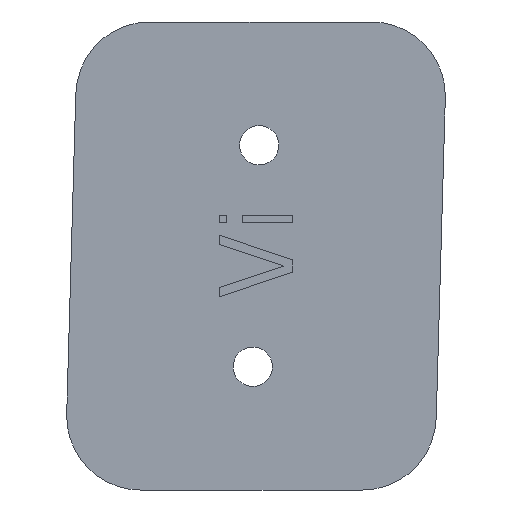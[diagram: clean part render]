
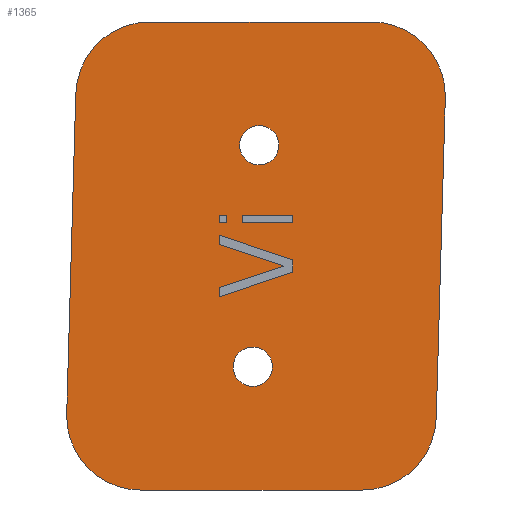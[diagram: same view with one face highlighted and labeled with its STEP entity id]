
A CAD part, front view. The second image highlights one B-rep face of the part: STEP entity #1365.
In plain terms, the highlighted planar face has unit normal (0, -1, 0).
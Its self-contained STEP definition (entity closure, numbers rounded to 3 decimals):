
#2=DIRECTION('',(-0.028,0.,-1.));
#3=VECTOR('',#2,26.01);
#4=CARTESIAN_POINT('',(-14.633,-22.25,13.17));
#5=LINE('',#4,#3);
#6=CARTESIAN_POINT('',(-8.635,-22.25,13.));
#7=DIRECTION('',(0.,-1.,0.));
#8=DIRECTION('',(0.,0.,1.));
#9=AXIS2_PLACEMENT_3D('',#6,#7,#8);
#11=DIRECTION('',(-1.,0.,0.));
#12=VECTOR('',#11,18.007);
#13=CARTESIAN_POINT('',(9.372,-22.25,19.));
#14=LINE('',#13,#12);
#15=CARTESIAN_POINT('',(9.372,-22.25,13.));
#16=DIRECTION('',(0.,-1.,0.));
#17=DIRECTION('',(1.,0.,-0.028));
#18=AXIS2_PLACEMENT_3D('',#15,#16,#17);
#20=DIRECTION('',(0.028,0.,1.));
#21=VECTOR('',#20,26.01);
#22=CARTESIAN_POINT('',(14.633,-22.25,-13.17));
#23=LINE('',#22,#21);
#24=CARTESIAN_POINT('',(8.635,-22.25,-13.));
#25=DIRECTION('',(0.,-1.,0.));
#26=DIRECTION('',(0.,0.,-1.));
#27=AXIS2_PLACEMENT_3D('',#24,#25,#26);
#29=DIRECTION('',(1.,0.,0.));
#30=VECTOR('',#29,18.007);
#31=CARTESIAN_POINT('',(-9.372,-22.25,-19.));
#32=LINE('',#31,#30);
#33=CARTESIAN_POINT('',(-9.372,-22.25,-13.));
#34=DIRECTION('',(0.,-1.,0.));
#35=DIRECTION('',(-1.,0.,0.028));
#36=AXIS2_PLACEMENT_3D('',#33,#34,#35);
#38=CARTESIAN_POINT('',(-0.255,-22.25,-8.996));
#39=DIRECTION('',(0.,-1.,0.));
#40=DIRECTION('',(1.,0.,0.));
#41=AXIS2_PLACEMENT_3D('',#38,#39,#40);
#43=CARTESIAN_POINT('',(-0.255,-22.25,-8.996));
#44=DIRECTION('',(0.,-1.,0.));
#45=DIRECTION('',(-1.,0.,0.));
#46=AXIS2_PLACEMENT_3D('',#43,#44,#45);
#48=CARTESIAN_POINT('',(0.255,-22.25,8.996));
#49=DIRECTION('',(0.,-1.,0.));
#50=DIRECTION('',(1.,0.,0.));
#51=AXIS2_PLACEMENT_3D('',#48,#49,#50);
#53=CARTESIAN_POINT('',(0.255,-22.25,8.996));
#54=DIRECTION('',(0.,-1.,0.));
#55=DIRECTION('',(-1.,0.,0.));
#56=AXIS2_PLACEMENT_3D('',#53,#54,#55);
#58=DIRECTION('',(-0.948,0.,-0.317));
#59=VECTOR('',#58,5.519);
#60=CARTESIAN_POINT('',(2.234,-22.25,-0.813));
#61=LINE('',#60,#59);
#62=DIRECTION('',(0.,0.,-1.));
#63=VECTOR('',#62,0.75);
#64=CARTESIAN_POINT('',(-3.,-22.25,-2.563));
#65=LINE('',#64,#63);
#66=DIRECTION('',(0.949,0.,0.316));
#67=VECTOR('',#66,6.325);
#68=CARTESIAN_POINT('',(-3.,-22.25,-3.313));
#69=LINE('',#68,#67);
#70=DIRECTION('',(0.,0.,1.));
#71=VECTOR('',#70,1.);
#72=CARTESIAN_POINT('',(3.,-22.25,-1.312));
#73=LINE('',#72,#71);
#74=DIRECTION('',(-0.949,0.,0.316));
#75=VECTOR('',#74,6.325);
#76=CARTESIAN_POINT('',(3.,-22.25,-0.313));
#77=LINE('',#76,#75);
#78=DIRECTION('',(0.,0.,-1.));
#79=VECTOR('',#78,0.75);
#80=CARTESIAN_POINT('',(-3.,-22.25,1.687));
#81=LINE('',#80,#79);
#82=DIRECTION('',(0.948,0.,-0.317));
#83=VECTOR('',#82,5.519);
#84=CARTESIAN_POINT('',(-3.,-22.25,0.937));
#85=LINE('',#84,#83);
#86=DIRECTION('',(-1.,0.,0.));
#87=VECTOR('',#86,4.085);
#88=CARTESIAN_POINT('',(3.,-22.25,3.312));
#89=LINE('',#88,#87);
#90=DIRECTION('',(0.,0.,-1.));
#91=VECTOR('',#90,0.625);
#92=CARTESIAN_POINT('',(-1.085,-22.25,3.312));
#93=LINE('',#92,#91);
#94=DIRECTION('',(1.,0.,0.));
#95=VECTOR('',#94,4.085);
#96=CARTESIAN_POINT('',(-1.085,-22.25,2.688));
#97=LINE('',#96,#95);
#98=DIRECTION('',(0.,0.,1.));
#99=VECTOR('',#98,0.625);
#100=CARTESIAN_POINT('',(3.,-22.25,2.688));
#101=LINE('',#100,#99);
#102=DIRECTION('',(-1.,0.,0.));
#103=VECTOR('',#102,0.638);
#104=CARTESIAN_POINT('',(-2.362,-22.25,3.312));
#105=LINE('',#104,#103);
#106=DIRECTION('',(0.,0.,-1.));
#107=VECTOR('',#106,0.625);
#108=CARTESIAN_POINT('',(-3.,-22.25,3.312));
#109=LINE('',#108,#107);
#110=DIRECTION('',(1.,0.,0.));
#111=VECTOR('',#110,0.638);
#112=CARTESIAN_POINT('',(-3.,-22.25,2.688));
#113=LINE('',#112,#111);
#114=DIRECTION('',(0.,0.,1.));
#115=VECTOR('',#114,0.625);
#116=CARTESIAN_POINT('',(-2.362,-22.25,2.688));
#117=LINE('',#116,#115);
#1164=CARTESIAN_POINT('',(2.234,-22.25,-0.813));
#1165=CARTESIAN_POINT('',(-3.,-22.25,-2.563));
#1166=VERTEX_POINT('',#1164);
#1167=VERTEX_POINT('',#1165);
#1168=CARTESIAN_POINT('',(-3.,-22.25,-3.313));
#1169=VERTEX_POINT('',#1168);
#1170=CARTESIAN_POINT('',(3.,-22.25,-1.312));
#1171=VERTEX_POINT('',#1170);
#1172=CARTESIAN_POINT('',(3.,-22.25,-0.313));
#1173=VERTEX_POINT('',#1172);
#1190=CARTESIAN_POINT('',(3.,-22.25,3.312));
#1191=CARTESIAN_POINT('',(-1.085,-22.25,3.312));
#1192=VERTEX_POINT('',#1190);
#1193=VERTEX_POINT('',#1191);
#1194=CARTESIAN_POINT('',(-1.085,-22.25,2.688));
#1195=VERTEX_POINT('',#1194);
#1196=CARTESIAN_POINT('',(3.,-22.25,2.688));
#1197=VERTEX_POINT('',#1196);
#1198=CARTESIAN_POINT('',(1.345,-22.25,-8.996));
#1199=CARTESIAN_POINT('',(-1.855,-22.25,-8.996));
#1200=VERTEX_POINT('',#1198);
#1201=VERTEX_POINT('',#1199);
#1210=CARTESIAN_POINT('',(1.855,-22.25,8.996));
#1211=CARTESIAN_POINT('',(-1.345,-22.25,8.996));
#1212=VERTEX_POINT('',#1210);
#1213=VERTEX_POINT('',#1211);
#1234=CARTESIAN_POINT('',(-3.,-22.25,1.687));
#1235=VERTEX_POINT('',#1234);
#1236=CARTESIAN_POINT('',(-3.,-22.25,0.937));
#1237=VERTEX_POINT('',#1236);
#1238=CARTESIAN_POINT('',(-2.362,-22.25,3.312));
#1239=CARTESIAN_POINT('',(-3.,-22.25,3.312));
#1240=VERTEX_POINT('',#1238);
#1241=VERTEX_POINT('',#1239);
#1242=CARTESIAN_POINT('',(-3.,-22.25,2.688));
#1243=VERTEX_POINT('',#1242);
#1244=CARTESIAN_POINT('',(-2.362,-22.25,2.688));
#1245=VERTEX_POINT('',#1244);
#1246=CARTESIAN_POINT('',(-14.633,-22.25,13.17));
#1247=CARTESIAN_POINT('',(-15.37,-22.25,-12.83));
#1248=VERTEX_POINT('',#1246);
#1249=VERTEX_POINT('',#1247);
#1250=CARTESIAN_POINT('',(-9.372,-22.25,-19.));
#1251=VERTEX_POINT('',#1250);
#1252=CARTESIAN_POINT('',(8.635,-22.25,-19.));
#1253=VERTEX_POINT('',#1252);
#1254=CARTESIAN_POINT('',(14.633,-22.25,-13.17));
#1255=VERTEX_POINT('',#1254);
#1256=CARTESIAN_POINT('',(15.37,-22.25,12.83));
#1257=VERTEX_POINT('',#1256);
#1258=CARTESIAN_POINT('',(9.372,-22.25,19.));
#1259=VERTEX_POINT('',#1258);
#1260=CARTESIAN_POINT('',(-8.635,-22.25,19.));
#1261=VERTEX_POINT('',#1260);
#1294=CARTESIAN_POINT('',(0.,-22.25,0.));
#1295=DIRECTION('',(0.,1.,0.));
#1296=DIRECTION('',(0.,0.,1.));
#1297=AXIS2_PLACEMENT_3D('',#1294,#1295,#1296);
#1298=PLANE('',#1297);
#1300=ORIENTED_EDGE('',*,*,#1299,.F.);
#1302=ORIENTED_EDGE('',*,*,#1301,.F.);
#1304=ORIENTED_EDGE('',*,*,#1303,.F.);
#1306=ORIENTED_EDGE('',*,*,#1305,.F.);
#1308=ORIENTED_EDGE('',*,*,#1307,.F.);
#1310=ORIENTED_EDGE('',*,*,#1309,.F.);
#1312=ORIENTED_EDGE('',*,*,#1311,.F.);
#1314=ORIENTED_EDGE('',*,*,#1313,.F.);
#1315=EDGE_LOOP('',(#1300,#1302,#1304,#1306,#1308,#1310,#1312,#1314));
#1316=FACE_OUTER_BOUND('',#1315,.F.);
#1318=ORIENTED_EDGE('',*,*,#1317,.T.);
#1320=ORIENTED_EDGE('',*,*,#1319,.T.);
#1321=EDGE_LOOP('',(#1318,#1320));
#1322=FACE_BOUND('',#1321,.F.);
#1324=ORIENTED_EDGE('',*,*,#1323,.T.);
#1326=ORIENTED_EDGE('',*,*,#1325,.T.);
#1327=EDGE_LOOP('',(#1324,#1326));
#1328=FACE_BOUND('',#1327,.F.);
#1330=ORIENTED_EDGE('',*,*,#1329,.T.);
#1332=ORIENTED_EDGE('',*,*,#1331,.T.);
#1334=ORIENTED_EDGE('',*,*,#1333,.T.);
#1336=ORIENTED_EDGE('',*,*,#1335,.T.);
#1338=ORIENTED_EDGE('',*,*,#1337,.T.);
#1340=ORIENTED_EDGE('',*,*,#1339,.T.);
#1342=ORIENTED_EDGE('',*,*,#1341,.T.);
#1343=EDGE_LOOP('',(#1330,#1332,#1334,#1336,#1338,#1340,#1342));
#1344=FACE_BOUND('',#1343,.F.);
#1346=ORIENTED_EDGE('',*,*,#1345,.T.);
#1348=ORIENTED_EDGE('',*,*,#1347,.T.);
#1350=ORIENTED_EDGE('',*,*,#1349,.T.);
#1352=ORIENTED_EDGE('',*,*,#1351,.T.);
#1353=EDGE_LOOP('',(#1346,#1348,#1350,#1352));
#1354=FACE_BOUND('',#1353,.F.);
#1356=ORIENTED_EDGE('',*,*,#1355,.T.);
#1358=ORIENTED_EDGE('',*,*,#1357,.T.);
#1360=ORIENTED_EDGE('',*,*,#1359,.T.);
#1362=ORIENTED_EDGE('',*,*,#1361,.T.);
#1363=EDGE_LOOP('',(#1356,#1358,#1360,#1362));
#1364=FACE_BOUND('',#1363,.F.);
#1365=ADVANCED_FACE('',(#1316,#1322,#1328,#1344,#1354,#1364),#1298,.F.);
#10=CIRCLE('',#9,6.);
#19=CIRCLE('',#18,6.);
#28=CIRCLE('',#27,6.);
#37=CIRCLE('',#36,6.);
#42=CIRCLE('',#41,1.6);
#47=CIRCLE('',#46,1.6);
#52=CIRCLE('',#51,1.6);
#57=CIRCLE('',#56,1.6);
#1299=EDGE_CURVE('',#1248,#1249,#5,.T.);
#1301=EDGE_CURVE('',#1261,#1248,#10,.T.);
#1303=EDGE_CURVE('',#1259,#1261,#14,.T.);
#1305=EDGE_CURVE('',#1257,#1259,#19,.T.);
#1307=EDGE_CURVE('',#1255,#1257,#23,.T.);
#1309=EDGE_CURVE('',#1253,#1255,#28,.T.);
#1311=EDGE_CURVE('',#1251,#1253,#32,.T.);
#1313=EDGE_CURVE('',#1249,#1251,#37,.T.);
#1317=EDGE_CURVE('',#1200,#1201,#42,.T.);
#1319=EDGE_CURVE('',#1201,#1200,#47,.T.);
#1323=EDGE_CURVE('',#1212,#1213,#52,.T.);
#1325=EDGE_CURVE('',#1213,#1212,#57,.T.);
#1329=EDGE_CURVE('',#1166,#1167,#61,.T.);
#1331=EDGE_CURVE('',#1167,#1169,#65,.T.);
#1333=EDGE_CURVE('',#1169,#1171,#69,.T.);
#1335=EDGE_CURVE('',#1171,#1173,#73,.T.);
#1337=EDGE_CURVE('',#1173,#1235,#77,.T.);
#1339=EDGE_CURVE('',#1235,#1237,#81,.T.);
#1341=EDGE_CURVE('',#1237,#1166,#85,.T.);
#1345=EDGE_CURVE('',#1192,#1193,#89,.T.);
#1347=EDGE_CURVE('',#1193,#1195,#93,.T.);
#1349=EDGE_CURVE('',#1195,#1197,#97,.T.);
#1351=EDGE_CURVE('',#1197,#1192,#101,.T.);
#1355=EDGE_CURVE('',#1240,#1241,#105,.T.);
#1357=EDGE_CURVE('',#1241,#1243,#109,.T.);
#1359=EDGE_CURVE('',#1243,#1245,#113,.T.);
#1361=EDGE_CURVE('',#1245,#1240,#117,.T.);
